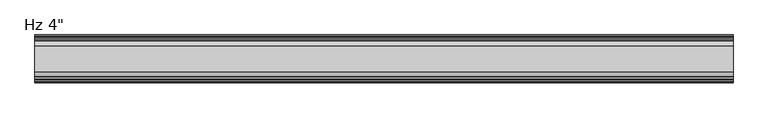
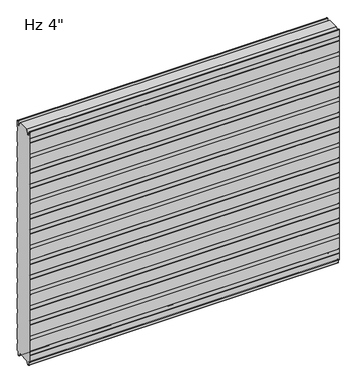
"""IFC4 building model written with IfcOpenShell, lengths in millimetres: plate geometry."""

from ifc_helpers import new_model, si_unit, frame, origin, place, context, project, spatial, polyline, circle_curve, source, transform, mapped, element, save
from ifc_brep_helpers import plane_surface, cylinder_surface, revolved_surface, advanced_brep


def plate_88cddf2a(model_context):
    return source(origin(), model_context, "Body", "AdvancedBrep", [
        advanced_brep(
        [(-730.0, -99.4088405, 1097.7830195), (-730.0, -99.4088405, 1117.5660142), (-730.0, -100.5999956, 1118.6385351), (-730.0, -100.5999956, 1150.8100652), (-730.0, -98.6227271, 1152.7873337), (-730.0, -97.5806285, 1152.7873337), (-730.0, -95.60336, 1150.8100652), (-730.0, -95.60336, 1136.6216802), (-730.0, -93.0154835, 1134.0338036), (-730.0, -88.6950653, 1134.0338036), (-730.0, -88.1060718, 1133.4253365), (-730.0, -88.1060718, 1131.0482432), (-730.0, -87.1065979, 1131.0482432), (-730.0, -87.1065979, 1136.4905123), (-730.0, -77.8490821, 1152.525), (-730.0, -23.7509179, 1152.525), (-730.0, -14.4934021, 1136.4905123), (-730.0, -14.4934021, 1131.0482432), (-730.0, -13.4939282, 1131.0482432), (-730.0, -13.4939282, 1133.4253365), (-730.0, -12.9049347, 1134.0338036), (-730.0, -8.5845165, 1134.0338036), (-730.0, -5.99664, 1136.6216802), (-730.0, -5.99664, 1150.8100652), (-730.0, -4.0193715, 1152.7873337), (-730.0, -2.9772729, 1152.7873337), (-730.0, -1.0000044, 1150.8100652), (-730.0, -1.0000044, 1118.6385351), (-730.0, -2.1911595, 1117.5660142), (-730.0, -2.1911595, 1097.7830195), (-730.0, -1.0, 1096.7104947), (-730.0, -1.0, 1043.0159187), (-730.0, -2.1911595, 1041.9433939), (-730.0, -2.1911595, 1022.1603992), (-730.0, -1.0, 1021.0878744), (-730.0, -1.0, 967.3932985), (-730.0, -2.1911595, 966.3207736), (-730.0, -2.1911595, 946.537779), (-730.0, -1.0, 945.4652541), (-730.0, -1.0, 891.7706782), (-730.0, -2.1911595, 890.6981534), (-730.0, -2.1911595, 870.9151587), (-730.0, -1.0, 869.8426339), (-730.0, -1.0, 816.148058), (-730.0, -2.1911595, 815.0755331), (-730.0, -2.1911595, 795.2925384), (-730.0, -1.0, 794.2200136), (-730.0, -1.0, 740.5254377), (-730.0, -2.1911595, 739.4529129), (-730.0, -2.1911595, 719.6699182), (-730.0, -1.0, 718.5973933), (-730.0, -1.0, 664.9028174), (-730.0, -2.1911595, 663.8302926), (-730.0, -2.1911595, 644.0472979), (-730.0, -1.0, 642.9747731), (-730.0, -1.0, 589.2801972), (-730.0, -2.1911595, 588.2076723), (-730.0, -2.1911595, 568.4246776), (-730.0, -1.0, 567.3521528), (-730.0, -1.0, 513.6575769), (-730.0, -2.1911595, 512.5850521), (-730.0, -2.1911595, 492.8020574), (-730.0, -1.0, 491.7295325), (-730.0, -1.0, 438.0349566), (-730.0, -2.1911595, 436.9624318), (-730.0, -2.1911595, 417.1794371), (-730.0, -1.0, 416.1069123), (-730.0, -1.0, 362.4123364), (-730.0, -2.1911595, 361.3398115), (-730.0, -2.1911595, 341.5568169), (-730.0, -1.0, 340.484292), (-730.0, -1.0, 286.7897161), (-730.0, -2.1911595, 285.7171913), (-730.0, -2.1911595, 265.9341966), (-730.0, -1.0, 264.8616718), (-730.0, -1.0, 211.1670958), (-730.0, -2.1911595, 210.094571), (-730.0, -2.1911595, 190.3115763), (-730.0, -1.0, 189.2390515), (-730.0, -1.0, 135.5444756), (-730.0, -2.1911595, 134.4719507), (-730.0, -2.1911595, 114.6889561), (-730.0, -1.0, 113.6164312), (-730.0, -1.0, 59.9218553), (-730.0, -2.1911595, 58.8493305), (-730.0, -2.1911595, 39.0663358), (-730.0, -1.0000109, 37.993811), (-730.0, -1.0000109, 5.8272239), (-730.0, -2.9772849, 3.8499499), (-730.0, -5.2691749, 3.8499499), (-730.0, -9.246442, -0.1273173), (-730.0, -9.246442, -15.7237417), (-730.0, -9.8343189, -16.3116186), (-730.0, -12.9058679, -16.3116186), (-730.0, -13.4937446, -15.723742), (-730.0, -13.4937446, -13.3687064), (-730.0, -14.4937446, -13.3687064), (-730.0, -14.4937446, -15.6582851), (-730.0, -23.7509179, 0.0), (-730.0, -77.8490865, 0.0), (-730.0, -87.1062554, -15.6582851), (-730.0, -87.1062554, -13.3687064), (-730.0, -88.1062554, -13.3687064), (-730.0, -88.1062554, -15.723742), (-730.0, -88.6941321, -16.3116186), (-730.0, -91.7656811, -16.3116186), (-730.0, -92.353558, -15.7237417), (-730.0, -92.353558, -0.1273173), (-730.0, -96.3308251, 3.8499499), (-730.0, -98.6227151, 3.8499499), (-730.0, -100.5999891, 5.8272239), (-730.0, -100.5999891, 37.993811), (-730.0, -99.4088405, 39.0663358), (-730.0, -99.4088405, 58.8493305), (-730.0, -100.6, 59.9218553), (-730.0, -100.6, 113.6164312), (-730.0, -99.4088405, 114.6889561), (-730.0, -99.4088405, 134.4719507), (-730.0, -100.6, 135.5444756), (-730.0, -100.6, 189.2390515), (-730.0, -99.4088405, 190.3115763), (-730.0, -99.4088405, 210.094571), (-730.0, -100.6, 211.1670958), (-730.0, -100.6, 264.8616718), (-730.0, -99.4088405, 265.9341966), (-730.0, -99.4088405, 285.7171913), (-730.0, -100.6, 286.7897161), (-730.0, -100.6, 340.484292), (-730.0, -99.4088405, 341.5568169), (-730.0, -99.4088405, 361.3398115), (-730.0, -100.6, 362.4123364), (-730.0, -100.6, 416.1069123), (-730.0, -99.4088405, 417.1794371), (-730.0, -99.4088405, 436.9624318), (-730.0, -100.6, 438.0349566), (-730.0, -100.6, 491.7295325), (-730.0, -99.4088405, 492.8020574), (-730.0, -99.4088405, 512.5850521), (-730.0, -100.6, 513.6575769), (-730.0, -100.6, 567.3521528), (-730.0, -99.4088405, 568.4246776), (-730.0, -99.4088405, 588.2076723), (-730.0, -100.6, 589.2801972), (-730.0, -100.6, 642.9747731), (-730.0, -99.4088405, 644.0472979), (-730.0, -99.4088405, 663.8302926), (-730.0, -100.6, 664.9028174), (-730.0, -100.6, 718.5973933), (-730.0, -99.4088405, 719.6699182), (-730.0, -99.4088405, 739.4529129), (-730.0, -100.6, 740.5254377), (-730.0, -100.6, 794.2200136), (-730.0, -99.4088405, 795.2925384), (-730.0, -99.4088405, 815.0755331), (-730.0, -100.6, 816.148058), (-730.0, -100.6, 869.8426339), (-730.0, -99.4088405, 870.9151587), (-730.0, -99.4088405, 890.6981534), (-730.0, -100.6, 891.7706782), (-730.0, -100.6, 945.4652541), (-730.0, -99.4088405, 946.537779), (-730.0, -99.4088405, 966.3207736), (-730.0, -100.6, 967.3932985), (-730.0, -100.6, 1021.0878744), (-730.0, -99.4088405, 1022.1603992), (-730.0, -99.4088405, 1041.9433939), (-730.0, -100.6, 1043.0159187), (-730.0, -100.6, 1096.7104947), (730.0, -99.4088405, 1097.7830195), (730.0, -100.6, 1096.7104947), (730.0, -100.6, 1043.0159187), (730.0, -99.4088405, 1041.9433939), (730.0, -99.4088405, 1022.1603992), (730.0, -100.6, 1021.0878744), (730.0, -100.6, 967.3932985), (730.0, -99.4088405, 966.3207736), (730.0, -99.4088405, 946.537779), (730.0, -100.6, 945.4652541), (730.0, -100.6, 891.7706782), (730.0, -99.4088405, 890.6981534), (730.0, -99.4088405, 870.9151587), (730.0, -100.6, 869.8426339), (730.0, -100.6, 816.148058), (730.0, -99.4088405, 815.0755331), (730.0, -99.4088405, 795.2925384), (730.0, -100.6, 794.2200136), (730.0, -100.6, 740.5254377), (730.0, -99.4088405, 739.4529129), (730.0, -99.4088405, 719.6699182), (730.0, -100.6, 718.5973933), (730.0, -100.6, 664.9028174), (730.0, -99.4088405, 663.8302926), (730.0, -99.4088405, 644.0472979), (730.0, -100.6, 642.9747731), (730.0, -100.6, 589.2801972), (730.0, -99.4088405, 588.2076723), (730.0, -99.4088405, 568.4246776), (730.0, -100.6, 567.3521528), (730.0, -100.6, 513.6575769), (730.0, -99.4088405, 512.5850521), (730.0, -99.4088405, 492.8020574), (730.0, -100.6, 491.7295325), (730.0, -100.6, 438.0349566), (730.0, -99.4088405, 436.9624318), (730.0, -99.4088405, 417.1794371), (730.0, -100.6, 416.1069123), (730.0, -100.6, 362.4123364), (730.0, -99.4088405, 361.3398115), (730.0, -99.4088405, 341.5568169), (730.0, -100.6, 340.484292), (730.0, -100.6, 286.7897161), (730.0, -99.4088405, 285.7171913), (730.0, -99.4088405, 265.9341966), (730.0, -100.6, 264.8616718), (730.0, -100.6, 211.1670958), (730.0, -99.4088405, 210.094571), (730.0, -99.4088405, 190.3115763), (730.0, -100.6, 189.2390515), (730.0, -100.6, 135.5444756), (730.0, -99.4088405, 134.4719507), (730.0, -99.4088405, 114.6889561), (730.0, -100.6, 113.6164312), (730.0, -100.6, 59.9218553), (730.0, -99.4088405, 58.8493305), (730.0, -99.4088405, 39.0663358), (730.0, -100.5999891, 37.993811), (730.0, -100.5999891, 5.8272239), (730.0, -98.6227151, 3.8499499), (730.0, -96.3308251, 3.8499499), (730.0, -92.353558, -0.1273173), (730.0, -92.353558, -15.7237417), (730.0, -91.7656811, -16.3116186), (730.0, -88.6941321, -16.3116186), (730.0, -88.1062554, -15.723742), (730.0, -88.1062554, -13.3687064), (730.0, -87.1062554, -13.3687064), (730.0, -87.1062554, -15.6582851), (730.0, -77.8490821, 0.0), (730.0, -23.7509179, 0.0), (730.0, -14.4937446, -15.6582851), (730.0, -14.4937446, -13.3687064), (730.0, -13.4937446, -13.3687064), (730.0, -13.4937446, -15.723742), (730.0, -12.9058679, -16.3116186), (730.0, -9.8343189, -16.3116186), (730.0, -9.246442, -15.7237417), (730.0, -9.246442, -0.1273173), (730.0, -5.2691749, 3.8499499), (730.0, -2.9772849, 3.8499499), (730.0, -1.0000109, 5.8272239), (730.0, -1.0000109, 37.993811), (730.0, -2.1911595, 39.0663358), (730.0, -2.1911595, 58.8493305), (730.0, -1.0, 59.9218553), (730.0, -1.0, 113.6164312), (730.0, -2.1911595, 114.6889561), (730.0, -2.1911595, 134.4719507), (730.0, -1.0, 135.5444756), (730.0, -1.0, 189.2390515), (730.0, -2.1911595, 190.3115763), (730.0, -2.1911595, 210.094571), (730.0, -1.0, 211.1670958), (730.0, -1.0, 264.8616718), (730.0, -2.1911595, 265.9341966), (730.0, -2.1911595, 285.7171913), (730.0, -1.0, 286.7897161), (730.0, -1.0, 340.484292), (730.0, -2.1911595, 341.5568169), (730.0, -2.1911595, 361.3398115), (730.0, -1.0, 362.4123364), (730.0, -1.0, 416.1069123), (730.0, -2.1911595, 417.1794371), (730.0, -2.1911595, 436.9624318), (730.0, -1.0, 438.0349566), (730.0, -1.0, 491.7295325), (730.0, -2.1911595, 492.8020574), (730.0, -2.1911595, 512.5850521), (730.0, -1.0, 513.6575769), (730.0, -1.0, 567.3521528), (730.0, -2.1911595, 568.4246776), (730.0, -2.1911595, 588.2076723), (730.0, -1.0, 589.2801972), (730.0, -1.0, 642.9747731), (730.0, -2.1911595, 644.0472979), (730.0, -2.1911595, 663.8302926), (730.0, -1.0, 664.9028174), (730.0, -1.0, 718.5973933), (730.0, -2.1911595, 719.6699182), (730.0, -2.1911595, 739.4529129), (730.0, -1.0, 740.5254377), (730.0, -1.0, 794.2200136), (730.0, -2.1911595, 795.2925384), (730.0, -2.1911595, 815.0755331), (730.0, -1.0, 816.148058), (730.0, -1.0, 869.8426339), (730.0, -2.1911595, 870.9151587), (730.0, -2.1911595, 890.6981534), (730.0, -1.0, 891.7706782), (730.0, -1.0, 945.4652541), (730.0, -2.1911595, 946.537779), (730.0, -2.1911595, 966.3207736), (730.0, -1.0, 967.3932985), (730.0, -1.0, 1021.0878744), (730.0, -2.1911595, 1022.1603992), (730.0, -2.1911595, 1041.9433939), (730.0, -1.0, 1043.0159187), (730.0, -1.0, 1096.7104947), (730.0, -2.1911595, 1097.7830195), (730.0, -2.1911595, 1117.5660142), (730.0, -1.0000044, 1118.6385351), (730.0, -1.0000044, 1150.8100652), (730.0, -2.9772729, 1152.7873337), (730.0, -4.0193715, 1152.7873337), (730.0, -5.99664, 1150.8100652), (730.0, -5.99664, 1136.6216802), (730.0, -8.5845165, 1134.0338036), (730.0, -12.9049347, 1134.0338036), (730.0, -13.4939282, 1133.4253365), (730.0, -13.4939282, 1131.0482432), (730.0, -14.4934021, 1131.0482432), (730.0, -14.4934021, 1136.4905123), (730.0, -23.7509179, 1152.525), (730.0, -77.8490865, 1152.525), (730.0, -87.1065979, 1136.4905123), (730.0, -87.1065979, 1131.0482432), (730.0, -88.1060718, 1131.0482432), (730.0, -88.1060718, 1133.4253365), (730.0, -88.6950653, 1134.0338036), (730.0, -93.0154835, 1134.0338036), (730.0, -95.60336, 1136.6216802), (730.0, -95.60336, 1150.8100652), (730.0, -97.5806285, 1152.7873337), (730.0, -98.6227271, 1152.7873337), (730.0, -100.5999956, 1150.8100652), (730.0, -100.5999956, 1118.6385351), (730.0, -99.4088405, 1117.5660142)],
        [
            (0, 1),
            (1, 2),
            (2, 3),
            (3, 4, circle_curve(frame((-730.0, -98.6227271, 1150.8100652), z_axis=(-1.0, 0.0, 0.0), x_axis=(0.0, 0.0, -1.0)), 1.9772685)),
            (4, 5),
            (5, 6, circle_curve(frame((-730.0, -97.5806285, 1150.8100652), z_axis=(-1.0, 0.0, 0.0), x_axis=(0.0, 0.0, -1.0)), 1.9772685)),
            (6, 7),
            (7, 8, circle_curve(frame((-730.0, -93.0154835, 1136.6216802), z_axis=(1.0, 0.0, 0.0), x_axis=(0.0, 0.0, -1.0)), 2.5878765)),
            (8, 9),
            (9, 10, circle_curve(frame((-730.0, -88.6950653, 1133.4444985), z_axis=(-1.0, 0.0, 0.0), x_axis=(0.0, 0.0, -1.0)), 0.5893051)),
            (10, 11),
            (11, 12),
            (12, 13),
            (13, 14),
            (14, 15),
            (15, 16),
            (16, 17),
            (17, 18),
            (18, 19),
            (19, 20, circle_curve(frame((-730.0, -12.9049347, 1133.4444985), z_axis=(-1.0, 0.0, 0.0), x_axis=(0.0, 1.0, 0.0)), 0.5893051)),
            (20, 21),
            (21, 22, circle_curve(frame((-730.0, -8.5845165, 1136.6216802), z_axis=(1.0, 0.0, 0.0), x_axis=(0.0, 1.0, 0.0)), 2.5878765)),
            (22, 23),
            (23, 24, circle_curve(frame((-730.0, -4.0193715, 1150.8100652), z_axis=(-1.0, 0.0, 0.0), x_axis=(0.0, 1.0, 0.0)), 1.9772685)),
            (24, 25),
            (25, 26, circle_curve(frame((-730.0, -2.9772729, 1150.8100652), z_axis=(-1.0, 0.0, 0.0), x_axis=(0.0, 1.0, 0.0)), 1.9772685)),
            (26, 27),
            (27, 28),
            (28, 29),
            (29, 30),
            (30, 31),
            (31, 32),
            (32, 33),
            (33, 34),
            (34, 35),
            (35, 36),
            (36, 37),
            (37, 38),
            (38, 39),
            (39, 40),
            (40, 41),
            (41, 42),
            (42, 43),
            (43, 44),
            (44, 45),
            (45, 46),
            (46, 47),
            (47, 48),
            (48, 49),
            (49, 50),
            (50, 51),
            (51, 52),
            (52, 53),
            (53, 54),
            (54, 55),
            (55, 56),
            (56, 57),
            (57, 58),
            (58, 59),
            (59, 60),
            (60, 61),
            (61, 62),
            (62, 63),
            (63, 64),
            (64, 65),
            (65, 66),
            (66, 67),
            (67, 68),
            (68, 69),
            (69, 70),
            (70, 71),
            (71, 72),
            (72, 73),
            (73, 74),
            (74, 75),
            (75, 76),
            (76, 77),
            (77, 78),
            (78, 79),
            (79, 80),
            (80, 81),
            (81, 82),
            (82, 83),
            (83, 84),
            (84, 85),
            (85, 86),
            (86, 87),
            (87, 88, circle_curve(frame((-730.0, -2.9772849, 5.8272239), z_axis=(-1.0, 0.0, 0.0), x_axis=(0.0, 1.0, 0.0)), 1.977274)),
            (88, 89),
            (89, 90, circle_curve(frame((-730.0, -5.2691749, -0.1273173), z_axis=(1.0, 0.0, 0.0), x_axis=(0.0, 1.0, 0.0)), 3.9772671)),
            (90, 91),
            (91, 92, circle_curve(frame((-730.0, -9.8343189, -15.7237417), z_axis=(-1.0, 0.0, 0.0), x_axis=(0.0, 1.0, 0.0)), 0.5878769)),
            (92, 93),
            (93, 94, circle_curve(frame((-730.0, -12.9058679, -15.723742), z_axis=(-1.0, 0.0, 0.0), x_axis=(0.0, 1.0, 0.0)), 0.5878766)),
            (94, 95),
            (95, 96),
            (96, 97),
            (97, 98),
            (98, 99),
            (99, 100),
            (100, 101),
            (101, 102),
            (102, 103),
            (103, 104, circle_curve(frame((-730.0, -88.6941321, -15.723742), z_axis=(-1.0, 0.0, 0.0), x_axis=(0.0, 0.0, -1.0)), 0.5878766)),
            (104, 105),
            (105, 106, circle_curve(frame((-730.0, -91.7656811, -15.7237417), z_axis=(-1.0, 0.0, 0.0), x_axis=(0.0, 0.0, -1.0)), 0.5878769)),
            (106, 107),
            (107, 108, circle_curve(frame((-730.0, -96.3308251, -0.1273173), z_axis=(1.0, 0.0, 0.0), x_axis=(0.0, 0.0, -1.0)), 3.9772671)),
            (108, 109),
            (109, 110, circle_curve(frame((-730.0, -98.6227151, 5.8272239), z_axis=(-1.0, 0.0, 0.0), x_axis=(0.0, 0.0, -1.0)), 1.977274)),
            (110, 111),
            (111, 112),
            (112, 113),
            (113, 114),
            (114, 115),
            (115, 116),
            (116, 117),
            (117, 118),
            (118, 119),
            (119, 120),
            (120, 121),
            (121, 122),
            (122, 123),
            (123, 124),
            (124, 125),
            (125, 126),
            (126, 127),
            (127, 128),
            (128, 129),
            (129, 130),
            (130, 131),
            (131, 132),
            (132, 133),
            (133, 134),
            (134, 135),
            (135, 136),
            (136, 137),
            (137, 138),
            (138, 139),
            (139, 140),
            (140, 141),
            (141, 142),
            (142, 143),
            (143, 144),
            (144, 145),
            (145, 146),
            (146, 147),
            (147, 148),
            (148, 149),
            (149, 150),
            (150, 151),
            (151, 152),
            (152, 153),
            (153, 154),
            (154, 155),
            (155, 156),
            (156, 157),
            (157, 158),
            (158, 159),
            (159, 160),
            (160, 161),
            (161, 162),
            (162, 163),
            (163, 164),
            (164, 165),
            (165, 166),
            (166, 167),
            (167, 0),
            (168, 169),
            (169, 170),
            (170, 171),
            (171, 172),
            (172, 173),
            (173, 174),
            (174, 175),
            (175, 176),
            (176, 177),
            (177, 178),
            (178, 179),
            (179, 180),
            (180, 181),
            (181, 182),
            (182, 183),
            (183, 184),
            (184, 185),
            (185, 186),
            (186, 187),
            (187, 188),
            (188, 189),
            (189, 190),
            (190, 191),
            (191, 192),
            (192, 193),
            (193, 194),
            (194, 195),
            (195, 196),
            (196, 197),
            (197, 198),
            (198, 199),
            (199, 200),
            (200, 201),
            (201, 202),
            (202, 203),
            (203, 204),
            (204, 205),
            (205, 206),
            (206, 207),
            (207, 208),
            (208, 209),
            (209, 210),
            (210, 211),
            (211, 212),
            (212, 213),
            (213, 214),
            (214, 215),
            (215, 216),
            (216, 217),
            (217, 218),
            (218, 219),
            (219, 220),
            (220, 221),
            (221, 222),
            (222, 223),
            (223, 224),
            (224, 225),
            (225, 226),
            (226, 227, circle_curve(frame((730.0, -98.6227151, 5.8272239), z_axis=(1.0, 0.0, 0.0), x_axis=(0.0, 0.0, -1.0)), 1.977274)),
            (227, 228),
            (228, 229, circle_curve(frame((730.0, -96.3308251, -0.1273173), z_axis=(-1.0, 0.0, 0.0), x_axis=(0.0, 0.0, -1.0)), 3.9772671)),
            (229, 230),
            (230, 231, circle_curve(frame((730.0, -91.7656811, -15.7237417), z_axis=(1.0, 0.0, 0.0), x_axis=(0.0, 0.0, -1.0)), 0.5878769)),
            (231, 232),
            (232, 233, circle_curve(frame((730.0, -88.6941321, -15.723742), z_axis=(1.0, 0.0, 0.0), x_axis=(0.0, 0.0, -1.0)), 0.5878766)),
            (233, 234),
            (234, 235),
            (235, 236),
            (236, 237),
            (237, 238),
            (238, 239),
            (239, 240),
            (240, 241),
            (241, 242),
            (242, 243, circle_curve(frame((730.0, -12.9058679, -15.723742), z_axis=(1.0, 0.0, 0.0), x_axis=(0.0, 1.0, 0.0)), 0.5878766)),
            (243, 244),
            (244, 245, circle_curve(frame((730.0, -9.8343189, -15.7237417), z_axis=(1.0, 0.0, 0.0), x_axis=(0.0, 1.0, 0.0)), 0.5878769)),
            (245, 246),
            (246, 247, circle_curve(frame((730.0, -5.2691749, -0.1273173), z_axis=(-1.0, 0.0, 0.0), x_axis=(0.0, 1.0, 0.0)), 3.9772671)),
            (247, 248),
            (248, 249, circle_curve(frame((730.0, -2.9772849, 5.8272239), z_axis=(1.0, 0.0, 0.0), x_axis=(0.0, 1.0, 0.0)), 1.977274)),
            (249, 250),
            (250, 251),
            (251, 252),
            (252, 253),
            (253, 254),
            (254, 255),
            (255, 256),
            (256, 257),
            (257, 258),
            (258, 259),
            (259, 260),
            (260, 261),
            (261, 262),
            (262, 263),
            (263, 264),
            (264, 265),
            (265, 266),
            (266, 267),
            (267, 268),
            (268, 269),
            (269, 270),
            (270, 271),
            (271, 272),
            (272, 273),
            (273, 274),
            (274, 275),
            (275, 276),
            (276, 277),
            (277, 278),
            (278, 279),
            (279, 280),
            (280, 281),
            (281, 282),
            (282, 283),
            (283, 284),
            (284, 285),
            (285, 286),
            (286, 287),
            (287, 288),
            (288, 289),
            (289, 290),
            (290, 291),
            (291, 292),
            (292, 293),
            (293, 294),
            (294, 295),
            (295, 296),
            (296, 297),
            (297, 298),
            (298, 299),
            (299, 300),
            (300, 301),
            (301, 302),
            (302, 303),
            (303, 304),
            (304, 305),
            (305, 306),
            (306, 307),
            (307, 308),
            (308, 309),
            (309, 310),
            (310, 311, circle_curve(frame((730.0, -2.9772729, 1150.8100652), z_axis=(1.0, 0.0, 0.0), x_axis=(0.0, 1.0, 0.0)), 1.9772685)),
            (311, 312),
            (312, 313, circle_curve(frame((730.0, -4.0193715, 1150.8100652), z_axis=(1.0, 0.0, 0.0), x_axis=(0.0, 1.0, 0.0)), 1.9772685)),
            (313, 314),
            (314, 315, circle_curve(frame((730.0, -8.5845165, 1136.6216802), z_axis=(-1.0, 0.0, 0.0), x_axis=(0.0, 1.0, 0.0)), 2.5878765)),
            (315, 316),
            (316, 317, circle_curve(frame((730.0, -12.9049347, 1133.4444985), z_axis=(1.0, 0.0, 0.0), x_axis=(0.0, 1.0, 0.0)), 0.5893051)),
            (317, 318),
            (318, 319),
            (319, 320),
            (320, 321),
            (321, 322),
            (322, 323),
            (323, 324),
            (324, 325),
            (325, 326),
            (326, 327, circle_curve(frame((730.0, -88.6950653, 1133.4444985), z_axis=(1.0, 0.0, 0.0), x_axis=(0.0, 0.0, -1.0)), 0.5893051)),
            (327, 328),
            (328, 329, circle_curve(frame((730.0, -93.0154835, 1136.6216802), z_axis=(-1.0, 0.0, 0.0), x_axis=(0.0, 0.0, -1.0)), 2.5878765)),
            (329, 330),
            (330, 331, circle_curve(frame((730.0, -97.5806285, 1150.8100652), z_axis=(1.0, 0.0, 0.0), x_axis=(0.0, 0.0, -1.0)), 1.9772685)),
            (331, 332),
            (332, 333, circle_curve(frame((730.0, -98.6227271, 1150.8100652), z_axis=(1.0, 0.0, 0.0), x_axis=(0.0, 0.0, -1.0)), 1.9772685)),
            (333, 334),
            (334, 335),
            (335, 168),
            (28, 308),
            (307, 29),
            (27, 309),
            (26, 310),
            (25, 311),
            (24, 312),
            (23, 313),
            (22, 314),
            (21, 315),
            (20, 316),
            (19, 317),
            (18, 318),
            (17, 319),
            (16, 320),
            (15, 321),
            (97, 239),
            (238, 98),
            (96, 240),
            (95, 241),
            (94, 242),
            (93, 243),
            (92, 244),
            (91, 245),
            (90, 246),
            (89, 247),
            (88, 248),
            (87, 249),
            (86, 250),
            (85, 251),
            (84, 252),
            (83, 253),
            (82, 254),
            (81, 255),
            (80, 256),
            (79, 257),
            (78, 258),
            (77, 259),
            (76, 260),
            (75, 261),
            (74, 262),
            (73, 263),
            (72, 264),
            (71, 265),
            (70, 266),
            (69, 267),
            (68, 268),
            (67, 269),
            (66, 270),
            (65, 271),
            (64, 272),
            (63, 273),
            (62, 274),
            (61, 275),
            (60, 276),
            (59, 277),
            (58, 278),
            (57, 279),
            (56, 280),
            (55, 281),
            (54, 282),
            (53, 283),
            (52, 284),
            (51, 285),
            (50, 286),
            (49, 287),
            (48, 288),
            (47, 289),
            (46, 290),
            (45, 291),
            (44, 292),
            (43, 293),
            (42, 294),
            (41, 295),
            (40, 296),
            (39, 297),
            (38, 298),
            (37, 299),
            (36, 300),
            (35, 301),
            (34, 302),
            (33, 303),
            (32, 304),
            (31, 305),
            (30, 306),
            (14, 322),
            (237, 99),
            (167, 169),
            (168, 0),
            (166, 170),
            (165, 171),
            (164, 172),
            (163, 173),
            (162, 174),
            (161, 175),
            (160, 176),
            (159, 177),
            (158, 178),
            (157, 179),
            (156, 180),
            (155, 181),
            (154, 182),
            (153, 183),
            (152, 184),
            (151, 185),
            (150, 186),
            (149, 187),
            (148, 188),
            (147, 189),
            (146, 190),
            (145, 191),
            (144, 192),
            (143, 193),
            (142, 194),
            (141, 195),
            (140, 196),
            (139, 197),
            (138, 198),
            (137, 199),
            (136, 200),
            (135, 201),
            (134, 202),
            (133, 203),
            (132, 204),
            (131, 205),
            (130, 206),
            (129, 207),
            (128, 208),
            (127, 209),
            (126, 210),
            (125, 211),
            (124, 212),
            (123, 213),
            (122, 214),
            (121, 215),
            (120, 216),
            (119, 217),
            (118, 218),
            (117, 219),
            (116, 220),
            (115, 221),
            (114, 222),
            (113, 223),
            (112, 224),
            (111, 225),
            (110, 226),
            (109, 227),
            (108, 228),
            (107, 229),
            (106, 230),
            (105, 231),
            (104, 232),
            (103, 233),
            (102, 234),
            (101, 235),
            (100, 236),
            (13, 323),
            (12, 324),
            (11, 325),
            (10, 326),
            (9, 327),
            (8, 328),
            (7, 329),
            (6, 330),
            (5, 331),
            (4, 332),
            (3, 333),
            (2, 334),
            (1, 335),
        ],
        [
            plane_surface(frame((-730.0, -100.6, 576.2625), z_axis=(-1.0, 0.0, 0.0), x_axis=(0.0, -1.0, 0.0))),
            plane_surface(frame((730.0, -100.6, 576.2625), z_axis=(1.0, 0.0, 0.0), x_axis=(0.0, -1.0, 0.0))),
            plane_surface(frame((-730.0, -2.1911595, 1097.7830195), z_axis=(0.0, 1.0, 0.0), x_axis=(1.0, 0.0, 0.0))),
            plane_surface(frame((-730.0, -2.1911595, 1117.5660142), z_axis=(0.0, 0.669130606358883, -0.7431448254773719), x_axis=(1.0, 0.0, 0.0))),
            plane_surface(frame((-730.0, -1.0000044, 1118.6385351), z_axis=(0.0, 1.0, 0.0), x_axis=(1.0, 0.0, 0.0))),
            cylinder_surface(frame((-730.0, -2.9772729, 1150.8100652), z_axis=(-1.0, 0.0, 0.0), x_axis=(0.0, 1.0, 0.0)), 1.9772685),
            plane_surface(frame((-730.0, -2.9772729, 1152.7873337), z_axis=(0.0, 0.0, 1.0), x_axis=(1.0, 0.0, 0.0))),
            cylinder_surface(frame((-730.0, -4.0193715, 1150.8100652), z_axis=(-1.0, 0.0, 0.0), x_axis=(0.0, 1.0, 0.0)), 1.9772685),
            plane_surface(frame((-730.0, -5.99664, 1150.8100652), z_axis=(0.0, -1.0, 0.0), x_axis=(1.0, 0.0, 0.0))),
            revolved_surface(polyline([(730.0, -5.996639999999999, 1136.6216802), (-730.0, -5.996639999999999, 1136.6216802)]), (-730.0, -8.5845165, 1136.6216802), (1.0, 0.0, 0.0)),
            plane_surface(frame((-730.0, -8.5845165, 1134.0338036), z_axis=(0.0, 0.0, 1.0), x_axis=(1.0, 0.0, 0.0))),
            cylinder_surface(frame((-730.0, -12.9049347, 1133.4444985), z_axis=(-1.0, 0.0, 0.0), x_axis=(0.0, 1.0, 0.0)), 0.5893051),
            plane_surface(frame((-730.0, -13.4939282, 1133.4253365), z_axis=(0.0, -1.0, 0.0), x_axis=(1.0, 0.0, 0.0))),
            plane_surface(frame((-730.0, -13.4939282, 1131.0482432), z_axis=(0.0, 0.0, 1.0), x_axis=(1.0, 0.0, 0.0))),
            plane_surface(frame((-730.0, -14.4934021, 1131.0482432), z_axis=(0.0, 1.0, 0.0), x_axis=(1.0, 0.0, 0.0))),
            plane_surface(frame((-730.0, -14.4934021, 1136.4905123), z_axis=(0.0, 0.8660254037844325, 0.5000000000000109), x_axis=(1.0, 0.0, 0.0))),
            plane_surface(frame((-730.0, -23.7509179, 0.0), z_axis=(0.0, -0.8608169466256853, -0.5089147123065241), x_axis=(1.0, 0.0, 0.0))),
            plane_surface(frame((-730.0, -14.4937446, -15.6582851), z_axis=(0.0, 1.0, 0.0), x_axis=(1.0, 0.0, 0.0))),
            plane_surface(frame((-730.0, -14.4937446, -13.3687064), z_axis=(0.0, 0.0, -1.0), x_axis=(1.0, 0.0, 0.0))),
            plane_surface(frame((-730.0, -13.4937446, -13.3687064), z_axis=(0.0, -1.0, 0.0), x_axis=(1.0, 0.0, 0.0))),
            cylinder_surface(frame((-730.0, -12.9058679, -15.723742), z_axis=(-1.0, 0.0, 0.0), x_axis=(0.0, 1.0, 0.0)), 0.5878766),
            plane_surface(frame((-730.0, -12.9058679, -16.3116186), z_axis=(0.0, 0.0, -1.0), x_axis=(1.0, 0.0, 0.0))),
            cylinder_surface(frame((-730.0, -9.8343189, -15.7237417), z_axis=(-1.0, 0.0, 0.0), x_axis=(0.0, 1.0, 0.0)), 0.5878769),
            plane_surface(frame((-730.0, -9.246442, -15.7237417), z_axis=(0.0, 1.0, 0.0), x_axis=(1.0, 0.0, 0.0))),
            revolved_surface(polyline([(730.0, -1.2919078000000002, -0.1273173), (-730.0, -1.2919078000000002, -0.1273173)]), (-730.0, -5.2691749, -0.1273173), (1.0, 0.0, 0.0)),
            plane_surface(frame((-730.0, -5.2691749, 3.8499499), z_axis=(0.0, 0.0, -1.0), x_axis=(1.0, 0.0, 0.0))),
            cylinder_surface(frame((-730.0, -2.9772849, 5.8272239), z_axis=(-1.0, 0.0, 0.0), x_axis=(0.0, 1.0, 0.0)), 1.977274),
            plane_surface(frame((-730.0, -1.0000109, 5.8272239), z_axis=(0.0, 1.0, 0.0), x_axis=(1.0, 0.0, 0.0))),
            plane_surface(frame((-730.0, -1.0000109, 37.993811), z_axis=(0.0, 0.6691339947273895, 0.7431417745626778), x_axis=(1.0, 0.0, 0.0))),
            plane_surface(frame((-730.0, -2.1911595, 39.0663358), z_axis=(0.0, 1.0, 0.0), x_axis=(1.0, 0.0, 0.0))),
            plane_surface(frame((-730.0, -2.1911595, 58.8493305), z_axis=(0.0, 0.6691306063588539, -0.7431448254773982), x_axis=(1.0, 0.0, 0.0))),
            plane_surface(frame((-730.0, -1.0, 59.9218553), z_axis=(0.0, 1.0, 0.0), x_axis=(1.0, 0.0, 0.0))),
            plane_surface(frame((-730.0, -1.0, 113.6164312), z_axis=(0.0, 0.6691306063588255, 0.7431448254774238), x_axis=(1.0, 0.0, 0.0))),
            plane_surface(frame((-730.0, -2.1911595, 114.6889561), z_axis=(0.0, 1.0, 0.0), x_axis=(1.0, 0.0, 0.0))),
            plane_surface(frame((-730.0, -2.1911595, 134.4719507), z_axis=(0.0, 0.6691306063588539, -0.7431448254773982), x_axis=(1.0, 0.0, 0.0))),
            plane_surface(frame((-730.0, -1.0, 135.5444756), z_axis=(0.0, 1.0, 0.0), x_axis=(1.0, 0.0, 0.0))),
            plane_surface(frame((-730.0, -1.0, 189.2390515), z_axis=(0.0, 0.669130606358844, 0.743144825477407), x_axis=(1.0, 0.0, 0.0))),
            plane_surface(frame((-730.0, -2.1911595, 190.3115763), z_axis=(0.0, 1.0, 0.0), x_axis=(1.0, 0.0, 0.0))),
            plane_surface(frame((-730.0, -2.1911595, 210.094571), z_axis=(0.0, 0.6691306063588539, -0.7431448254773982), x_axis=(1.0, 0.0, 0.0))),
            plane_surface(frame((-730.0, -1.0, 211.1670958), z_axis=(0.0, 1.0, 0.0), x_axis=(1.0, 0.0, 0.0))),
            plane_surface(frame((-730.0, -1.0, 264.8616718), z_axis=(0.0, 0.6691306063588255, 0.7431448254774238), x_axis=(1.0, 0.0, 0.0))),
            plane_surface(frame((-730.0, -2.1911595, 265.9341966), z_axis=(0.0, 1.0, 0.0), x_axis=(1.0, 0.0, 0.0))),
            plane_surface(frame((-730.0, -2.1911595, 285.7171913), z_axis=(0.0, 0.6691306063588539, -0.7431448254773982), x_axis=(1.0, 0.0, 0.0))),
            plane_surface(frame((-730.0, -1.0, 286.7897161), z_axis=(0.0, 1.0, 0.0), x_axis=(1.0, 0.0, 0.0))),
            plane_surface(frame((-730.0, -1.0, 340.484292), z_axis=(0.0, 0.669130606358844, 0.743144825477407), x_axis=(1.0, 0.0, 0.0))),
            plane_surface(frame((-730.0, -2.1911595, 341.5568169), z_axis=(0.0, 1.0, 0.0), x_axis=(1.0, 0.0, 0.0))),
            plane_surface(frame((-730.0, -2.1911595, 361.3398115), z_axis=(0.0, 0.6691306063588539, -0.7431448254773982), x_axis=(1.0, 0.0, 0.0))),
            plane_surface(frame((-730.0, -1.0, 362.4123364), z_axis=(0.0, 1.0, 0.0), x_axis=(1.0, 0.0, 0.0))),
            plane_surface(frame((-730.0, -1.0, 416.1069123), z_axis=(0.0, 0.669130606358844, 0.743144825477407), x_axis=(1.0, 0.0, 0.0))),
            plane_surface(frame((-730.0, -2.1911595, 417.1794371), z_axis=(0.0, 1.0, 0.0), x_axis=(1.0, 0.0, 0.0))),
            plane_surface(frame((-730.0, -2.1911595, 436.9624318), z_axis=(0.0, 0.6691306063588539, -0.7431448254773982), x_axis=(1.0, 0.0, 0.0))),
            plane_surface(frame((-730.0, -1.0, 438.0349566), z_axis=(0.0, 1.0, 0.0), x_axis=(1.0, 0.0, 0.0))),
            plane_surface(frame((-730.0, -1.0, 491.7295325), z_axis=(0.0, 0.6691306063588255, 0.7431448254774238), x_axis=(1.0, 0.0, 0.0))),
            plane_surface(frame((-730.0, -2.1911595, 492.8020574), z_axis=(0.0, 1.0, 0.0), x_axis=(1.0, 0.0, 0.0))),
            plane_surface(frame((-730.0, -2.1911595, 512.5850521), z_axis=(0.0, 0.6691306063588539, -0.7431448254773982), x_axis=(1.0, 0.0, 0.0))),
            plane_surface(frame((-730.0, -1.0, 513.6575769), z_axis=(0.0, 1.0, 0.0), x_axis=(1.0, 0.0, 0.0))),
            plane_surface(frame((-730.0, -1.0, 567.3521528), z_axis=(0.0, 0.669130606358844, 0.743144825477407), x_axis=(1.0, 0.0, 0.0))),
            plane_surface(frame((-730.0, -2.1911595, 568.4246776), z_axis=(0.0, 1.0, 0.0), x_axis=(1.0, 0.0, 0.0))),
            plane_surface(frame((-730.0, -2.1911595, 588.2076723), z_axis=(0.0, 0.6691306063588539, -0.7431448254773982), x_axis=(1.0, 0.0, 0.0))),
            plane_surface(frame((-730.0, -1.0, 589.2801972), z_axis=(0.0, 1.0, 0.0), x_axis=(1.0, 0.0, 0.0))),
            plane_surface(frame((-730.0, -1.0, 642.9747731), z_axis=(0.0, 0.6691306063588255, 0.7431448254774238), x_axis=(1.0, 0.0, 0.0))),
            plane_surface(frame((-730.0, -2.1911595, 644.0472979), z_axis=(0.0, 1.0, 0.0), x_axis=(1.0, 0.0, 0.0))),
            plane_surface(frame((-730.0, -2.1911595, 663.8302926), z_axis=(0.0, 0.6691306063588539, -0.7431448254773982), x_axis=(1.0, 0.0, 0.0))),
            plane_surface(frame((-730.0, -1.0, 664.9028174), z_axis=(0.0, 1.0, 0.0), x_axis=(1.0, 0.0, 0.0))),
            plane_surface(frame((-730.0, -1.0, 718.5973933), z_axis=(0.0, 0.669130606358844, 0.743144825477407), x_axis=(1.0, 0.0, 0.0))),
            plane_surface(frame((-730.0, -2.1911595, 719.6699182), z_axis=(0.0, 1.0, 0.0), x_axis=(1.0, 0.0, 0.0))),
            plane_surface(frame((-730.0, -2.1911595, 739.4529129), z_axis=(0.0, 0.6691306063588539, -0.7431448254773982), x_axis=(1.0, 0.0, 0.0))),
            plane_surface(frame((-730.0, -1.0, 740.5254377), z_axis=(0.0, 1.0, 0.0), x_axis=(1.0, 0.0, 0.0))),
            plane_surface(frame((-730.0, -1.0, 794.2200136), z_axis=(0.0, 0.6691306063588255, 0.7431448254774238), x_axis=(1.0, 0.0, 0.0))),
            plane_surface(frame((-730.0, -2.1911595, 795.2925384), z_axis=(0.0, 1.0, 0.0), x_axis=(1.0, 0.0, 0.0))),
            plane_surface(frame((-730.0, -2.1911595, 815.0755331), z_axis=(0.0, 0.6691306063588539, -0.7431448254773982), x_axis=(1.0, 0.0, 0.0))),
            plane_surface(frame((-730.0, -1.0, 816.148058), z_axis=(0.0, 1.0, 0.0), x_axis=(1.0, 0.0, 0.0))),
            plane_surface(frame((-730.0, -1.0, 869.8426339), z_axis=(0.0, 0.669130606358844, 0.743144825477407), x_axis=(1.0, 0.0, 0.0))),
            plane_surface(frame((-730.0, -2.1911595, 870.9151587), z_axis=(0.0, 1.0, 0.0), x_axis=(1.0, 0.0, 0.0))),
            plane_surface(frame((-730.0, -2.1911595, 890.6981534), z_axis=(0.0, 0.6691306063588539, -0.7431448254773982), x_axis=(1.0, 0.0, 0.0))),
            plane_surface(frame((-730.0, -1.0, 891.7706782), z_axis=(0.0, 1.0, 0.0), x_axis=(1.0, 0.0, 0.0))),
            plane_surface(frame((-730.0, -1.0, 945.4652541), z_axis=(0.0, 0.669130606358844, 0.743144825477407), x_axis=(1.0, 0.0, 0.0))),
            plane_surface(frame((-730.0, -2.1911595, 946.537779), z_axis=(0.0, 1.0, 0.0), x_axis=(1.0, 0.0, 0.0))),
            plane_surface(frame((-730.0, -2.1911595, 966.3207736), z_axis=(0.0, 0.6691306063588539, -0.7431448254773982), x_axis=(1.0, 0.0, 0.0))),
            plane_surface(frame((-730.0, -1.0, 967.3932985), z_axis=(0.0, 1.0, 0.0), x_axis=(1.0, 0.0, 0.0))),
            plane_surface(frame((-730.0, -1.0, 1021.0878744), z_axis=(0.0, 0.669130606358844, 0.743144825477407), x_axis=(1.0, 0.0, 0.0))),
            plane_surface(frame((-730.0, -2.1911595, 1022.1603992), z_axis=(0.0, 1.0, 0.0), x_axis=(1.0, 0.0, 0.0))),
            plane_surface(frame((-730.0, -2.1911595, 1041.9433939), z_axis=(0.0, 0.6691306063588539, -0.7431448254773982), x_axis=(1.0, 0.0, 0.0))),
            plane_surface(frame((-730.0, -1.0, 1043.0159187), z_axis=(0.0, 1.0, 0.0), x_axis=(1.0, 0.0, 0.0))),
            plane_surface(frame((-730.0, -1.0, 1096.7104947), z_axis=(0.0, 0.669130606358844, 0.743144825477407), x_axis=(1.0, 0.0, 0.0))),
            plane_surface(frame((-730.0, -77.8490865, 1152.525), z_axis=(0.0, 0.0, 1.0), x_axis=(-1.0, 0.0, 0.0))),
            plane_surface(frame((-730.0, -77.8490865, 0.0), z_axis=(0.0, 0.0, -1.0), x_axis=(1.0, 0.0, 0.0))),
            plane_surface(frame((-730.0, -99.4088405, 1097.7830195), z_axis=(0.0, -0.6691306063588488, 0.7431448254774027), x_axis=(1.0, 0.0, 0.0))),
            plane_surface(frame((-730.0, -100.6, 1096.7104947), z_axis=(0.0, -1.0, 0.0), x_axis=(1.0, 0.0, 0.0))),
            plane_surface(frame((-730.0, -100.6, 1043.0159187), z_axis=(0.0, -0.6691306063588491, -0.7431448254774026), x_axis=(1.0, 0.0, 0.0))),
            plane_surface(frame((-730.0, -99.4088405, 1041.9433939), z_axis=(0.0, -1.0, 0.0), x_axis=(1.0, 0.0, 0.0))),
            plane_surface(frame((-730.0, -99.4088405, 1022.1603992), z_axis=(0.0, -0.6691306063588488, 0.7431448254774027), x_axis=(1.0, 0.0, 0.0))),
            plane_surface(frame((-730.0, -100.6, 1021.0878744), z_axis=(0.0, -1.0, 0.0), x_axis=(1.0, 0.0, 0.0))),
            plane_surface(frame((-730.0, -100.6, 967.3932985), z_axis=(0.0, -0.6691306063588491, -0.7431448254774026), x_axis=(1.0, 0.0, 0.0))),
            plane_surface(frame((-730.0, -99.4088405, 966.3207736), z_axis=(0.0, -1.0, 0.0), x_axis=(1.0, 0.0, 0.0))),
            plane_surface(frame((-730.0, -99.4088405, 946.537779), z_axis=(0.0, -0.6691306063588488, 0.7431448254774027), x_axis=(1.0, 0.0, 0.0))),
            plane_surface(frame((-730.0, -100.6, 945.4652541), z_axis=(0.0, -1.0, 0.0), x_axis=(1.0, 0.0, 0.0))),
            plane_surface(frame((-730.0, -100.6, 891.7706782), z_axis=(0.0, -0.6691306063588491, -0.7431448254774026), x_axis=(1.0, 0.0, 0.0))),
            plane_surface(frame((-730.0, -99.4088405, 890.6981534), z_axis=(0.0, -1.0, 0.0), x_axis=(1.0, 0.0, 0.0))),
            plane_surface(frame((-730.0, -99.4088405, 870.9151587), z_axis=(0.0, -0.6691306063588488, 0.7431448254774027), x_axis=(1.0, 0.0, 0.0))),
            plane_surface(frame((-730.0, -100.6, 869.8426339), z_axis=(0.0, -1.0, 0.0), x_axis=(1.0, 0.0, 0.0))),
            plane_surface(frame((-730.0, -100.6, 816.148058), z_axis=(0.0, -0.6691306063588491, -0.7431448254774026), x_axis=(1.0, 0.0, 0.0))),
            plane_surface(frame((-730.0, -99.4088405, 815.0755331), z_axis=(0.0, -1.0, 0.0), x_axis=(1.0, 0.0, 0.0))),
            plane_surface(frame((-730.0, -99.4088405, 795.2925384), z_axis=(0.0, -0.6691306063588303, 0.7431448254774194), x_axis=(1.0, 0.0, 0.0))),
            plane_surface(frame((-730.0, -100.6, 794.2200136), z_axis=(0.0, -1.0, 0.0), x_axis=(1.0, 0.0, 0.0))),
            plane_surface(frame((-730.0, -100.6, 740.5254377), z_axis=(0.0, -0.6691306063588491, -0.7431448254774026), x_axis=(1.0, 0.0, 0.0))),
            plane_surface(frame((-730.0, -99.4088405, 739.4529129), z_axis=(0.0, -1.0, 0.0), x_axis=(1.0, 0.0, 0.0))),
            plane_surface(frame((-730.0, -99.4088405, 719.6699182), z_axis=(0.0, -0.6691306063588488, 0.7431448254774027), x_axis=(1.0, 0.0, 0.0))),
            plane_surface(frame((-730.0, -100.6, 718.5973933), z_axis=(0.0, -1.0, 0.0), x_axis=(1.0, 0.0, 0.0))),
            plane_surface(frame((-730.0, -100.6, 664.9028174), z_axis=(0.0, -0.6691306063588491, -0.7431448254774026), x_axis=(1.0, 0.0, 0.0))),
            plane_surface(frame((-730.0, -99.4088405, 663.8302926), z_axis=(0.0, -1.0, 0.0), x_axis=(1.0, 0.0, 0.0))),
            plane_surface(frame((-730.0, -99.4088405, 644.0472979), z_axis=(0.0, -0.6691306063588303, 0.7431448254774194), x_axis=(1.0, 0.0, 0.0))),
            plane_surface(frame((-730.0, -100.6, 642.9747731), z_axis=(0.0, -1.0, 0.0), x_axis=(1.0, 0.0, 0.0))),
            plane_surface(frame((-730.0, -100.6, 589.2801972), z_axis=(0.0, -0.6691306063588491, -0.7431448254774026), x_axis=(1.0, 0.0, 0.0))),
            plane_surface(frame((-730.0, -99.4088405, 588.2076723), z_axis=(0.0, -1.0, 0.0), x_axis=(1.0, 0.0, 0.0))),
            plane_surface(frame((-730.0, -99.4088405, 568.4246776), z_axis=(0.0, -0.6691306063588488, 0.7431448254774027), x_axis=(1.0, 0.0, 0.0))),
            plane_surface(frame((-730.0, -100.6, 567.3521528), z_axis=(0.0, -1.0, 0.0), x_axis=(1.0, 0.0, 0.0))),
            plane_surface(frame((-730.0, -100.6, 513.6575769), z_axis=(0.0, -0.6691306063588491, -0.7431448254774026), x_axis=(1.0, 0.0, 0.0))),
            plane_surface(frame((-730.0, -99.4088405, 512.5850521), z_axis=(0.0, -1.0, 0.0), x_axis=(1.0, 0.0, 0.0))),
            plane_surface(frame((-730.0, -99.4088405, 492.8020574), z_axis=(0.0, -0.6691306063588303, 0.7431448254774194), x_axis=(1.0, 0.0, 0.0))),
            plane_surface(frame((-730.0, -100.6, 491.7295325), z_axis=(0.0, -1.0, 0.0), x_axis=(1.0, 0.0, 0.0))),
            plane_surface(frame((-730.0, -100.6, 438.0349566), z_axis=(0.0, -0.6691306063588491, -0.7431448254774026), x_axis=(1.0, 0.0, 0.0))),
            plane_surface(frame((-730.0, -99.4088405, 436.9624318), z_axis=(0.0, -1.0, 0.0), x_axis=(1.0, 0.0, 0.0))),
            plane_surface(frame((-730.0, -99.4088405, 417.1794371), z_axis=(0.0, -0.6691306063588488, 0.7431448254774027), x_axis=(1.0, 0.0, 0.0))),
            plane_surface(frame((-730.0, -100.6, 416.1069123), z_axis=(0.0, -1.0, 0.0), x_axis=(1.0, 0.0, 0.0))),
            plane_surface(frame((-730.0, -100.6, 362.4123364), z_axis=(0.0, -0.6691306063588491, -0.7431448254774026), x_axis=(1.0, 0.0, 0.0))),
            plane_surface(frame((-730.0, -99.4088405, 361.3398115), z_axis=(0.0, -1.0, 0.0), x_axis=(1.0, 0.0, 0.0))),
            plane_surface(frame((-730.0, -99.4088405, 341.5568169), z_axis=(0.0, -0.6691306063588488, 0.7431448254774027), x_axis=(1.0, 0.0, 0.0))),
            plane_surface(frame((-730.0, -100.6, 340.484292), z_axis=(0.0, -1.0, 0.0), x_axis=(1.0, 0.0, 0.0))),
            plane_surface(frame((-730.0, -100.6, 286.7897161), z_axis=(0.0, -0.6691306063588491, -0.7431448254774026), x_axis=(1.0, 0.0, 0.0))),
            plane_surface(frame((-730.0, -99.4088405, 285.7171913), z_axis=(0.0, -1.0, 0.0), x_axis=(1.0, 0.0, 0.0))),
            plane_surface(frame((-730.0, -99.4088405, 265.9341966), z_axis=(0.0, -0.6691306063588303, 0.7431448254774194), x_axis=(1.0, 0.0, 0.0))),
            plane_surface(frame((-730.0, -100.6, 264.8616718), z_axis=(0.0, -1.0, 0.0), x_axis=(1.0, 0.0, 0.0))),
            plane_surface(frame((-730.0, -100.6, 211.1670958), z_axis=(0.0, -0.6691306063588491, -0.7431448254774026), x_axis=(1.0, 0.0, 0.0))),
            plane_surface(frame((-730.0, -99.4088405, 210.094571), z_axis=(0.0, -1.0, 0.0), x_axis=(1.0, 0.0, 0.0))),
            plane_surface(frame((-730.0, -99.4088405, 190.3115763), z_axis=(0.0, -0.6691306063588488, 0.7431448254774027), x_axis=(1.0, 0.0, 0.0))),
            plane_surface(frame((-730.0, -100.6, 189.2390515), z_axis=(0.0, -1.0, 0.0), x_axis=(1.0, 0.0, 0.0))),
            plane_surface(frame((-730.0, -100.6, 135.5444756), z_axis=(0.0, -0.6691306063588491, -0.7431448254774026), x_axis=(1.0, 0.0, 0.0))),
            plane_surface(frame((-730.0, -99.4088405, 134.4719507), z_axis=(0.0, -1.0, 0.0), x_axis=(1.0, 0.0, 0.0))),
            plane_surface(frame((-730.0, -99.4088405, 114.6889561), z_axis=(0.0, -0.6691306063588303, 0.7431448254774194), x_axis=(1.0, 0.0, 0.0))),
            plane_surface(frame((-730.0, -100.6, 113.6164312), z_axis=(0.0, -1.0, 0.0), x_axis=(1.0, 0.0, 0.0))),
            plane_surface(frame((-730.0, -100.6, 59.9218553), z_axis=(0.0, -0.6691306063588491, -0.7431448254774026), x_axis=(1.0, 0.0, 0.0))),
            plane_surface(frame((-730.0, -99.4088405, 58.8493305), z_axis=(0.0, -1.0, 0.0), x_axis=(1.0, 0.0, 0.0))),
            plane_surface(frame((-730.0, -99.4088405, 39.0663358), z_axis=(0.0, -0.6691339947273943, 0.7431417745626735), x_axis=(1.0, 0.0, 0.0))),
            plane_surface(frame((-730.0, -100.5999891, 37.993811), z_axis=(0.0, -1.0, 0.0), x_axis=(1.0, 0.0, 0.0))),
            cylinder_surface(frame((-730.0, -98.6227151, 5.8272239), z_axis=(-1.0, 0.0, 0.0), x_axis=(0.0, 0.0, -1.0)), 1.977274),
            plane_surface(frame((-730.0, -98.6227151, 3.8499499), z_axis=(0.0, 0.0, -1.0), x_axis=(1.0, 0.0, 0.0))),
            revolved_surface(polyline([(730.0, -96.3308251, -4.1045844), (-730.0, -96.3308251, -4.1045844)]), (-730.0, -96.3308251, -0.1273173), (1.0, 0.0, 0.0)),
            plane_surface(frame((-730.0, -92.353558, -0.1273173), z_axis=(0.0, -1.0, 0.0), x_axis=(1.0, 0.0, 0.0))),
            cylinder_surface(frame((-730.0, -91.7656811, -15.7237417), z_axis=(-1.0, 0.0, 0.0), x_axis=(0.0, 0.0, -1.0)), 0.5878769),
            plane_surface(frame((-730.0, -91.7656811, -16.3116186), z_axis=(0.0, 0.0, -1.0), x_axis=(1.0, 0.0, 0.0))),
            cylinder_surface(frame((-730.0, -88.6941321, -15.723742), z_axis=(-1.0, 0.0, 0.0), x_axis=(0.0, 0.0, -1.0)), 0.5878766),
            plane_surface(frame((-730.0, -88.1062554, -15.723742), z_axis=(0.0, 1.0, 0.0), x_axis=(1.0, 0.0, 0.0))),
            plane_surface(frame((-730.0, -88.1062554, -13.3687064), z_axis=(0.0, 0.0, -1.0), x_axis=(1.0, 0.0, 0.0))),
            plane_surface(frame((-730.0, -87.1062554, -13.3687064), z_axis=(0.0, -1.0, 0.0), x_axis=(1.0, 0.0, 0.0))),
            plane_surface(frame((-730.0, -87.1062554, -15.6582851), z_axis=(0.0, 0.8608169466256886, -0.5089147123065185), x_axis=(1.0, 0.0, 0.0))),
            plane_surface(frame((-730.0, -77.8490821, 1152.525), z_axis=(0.0, -0.8660254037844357, 0.5000000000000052), x_axis=(1.0, 0.0, 0.0))),
            plane_surface(frame((-730.0, -87.1065979, 1136.4905123), z_axis=(0.0, -1.0, 0.0), x_axis=(1.0, 0.0, 0.0))),
            plane_surface(frame((-730.0, -87.1065979, 1131.0482432), z_axis=(0.0, 0.0, 1.0), x_axis=(1.0, 0.0, 0.0))),
            plane_surface(frame((-730.0, -88.1060718, 1131.0482432), z_axis=(0.0, 1.0, 0.0), x_axis=(1.0, 0.0, 0.0))),
            cylinder_surface(frame((-730.0, -88.6950653, 1133.4444985), z_axis=(-1.0, 0.0, 0.0), x_axis=(0.0, 0.0, -1.0)), 0.5893051),
            plane_surface(frame((-730.0, -88.6950653, 1134.0338036), z_axis=(0.0, 0.0, 1.0), x_axis=(1.0, 0.0, 0.0))),
            revolved_surface(polyline([(730.0, -93.0154835, 1134.0338037), (-730.0, -93.0154835, 1134.0338037)]), (-730.0, -93.0154835, 1136.6216802), (1.0, 0.0, 0.0)),
            plane_surface(frame((-730.0, -95.60336, 1136.6216802), z_axis=(0.0, 1.0, 0.0), x_axis=(1.0, 0.0, 0.0))),
            cylinder_surface(frame((-730.0, -97.5806285, 1150.8100652), z_axis=(-1.0, 0.0, 0.0), x_axis=(0.0, 0.0, -1.0)), 1.9772685),
            plane_surface(frame((-730.0, -97.5806285, 1152.7873337), z_axis=(0.0, 0.0, 1.0), x_axis=(1.0, 0.0, 0.0))),
            cylinder_surface(frame((-730.0, -98.6227271, 1150.8100652), z_axis=(-1.0, 0.0, 0.0), x_axis=(0.0, 0.0, -1.0)), 1.9772685),
            plane_surface(frame((-730.0, -100.5999956, 1150.8100652), z_axis=(0.0, -1.0, 0.0), x_axis=(1.0, 0.0, 0.0))),
            plane_surface(frame((-730.0, -100.5999956, 1118.6385351), z_axis=(0.0, -0.6691306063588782, -0.7431448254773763), x_axis=(1.0, 0.0, 0.0))),
            plane_surface(frame((-730.0, -99.4088405, 1117.5660142), z_axis=(0.0, -1.0, 0.0), x_axis=(1.0, 0.0, 0.0))),
        ],
        [
            (0, [[1, 2, 3, 4, 5, 6, 7, 8, 9, 10, 11, 12, 13, 14, 15, 16, 17, 18, 19, 20, 21, 22, 23, 24, 25, 26, 27, 28, 29, 30, 31, 32, 33, 34, 35, 36, 37, 38, 39, 40, 41, 42, 43, 44, 45, 46, 47, 48, 49, 50, 51, 52, 53, 54, 55, 56, 57, 58, 59, 60, 61, 62, 63, 64, 65, 66, 67, 68, 69, 70, 71, 72, 73, 74, 75, 76, 77, 78, 79, 80, 81, 82, 83, 84, 85, 86, 87, 88, 89, 90, 91, 92, 93, 94, 95, 96, 97, 98, 99, 100, 101, 102, 103, 104, 105, 106, 107, 108, 109, 110, 111, 112, 113, 114, 115, 116, 117, 118, 119, 120, 121, 122, 123, 124, 125, 126, 127, 128, 129, 130, 131, 132, 133, 134, 135, 136, 137, 138, 139, 140, 141, 142, 143, 144, 145, 146, 147, 148, 149, 150, 151, 152, 153, 154, 155, 156, 157, 158, 159, 160, 161, 162, 163, 164, 165, 166, 167, 168]]),
            (1, [[169, 170, 171, 172, 173, 174, 175, 176, 177, 178, 179, 180, 181, 182, 183, 184, 185, 186, 187, 188, 189, 190, 191, 192, 193, 194, 195, 196, 197, 198, 199, 200, 201, 202, 203, 204, 205, 206, 207, 208, 209, 210, 211, 212, 213, 214, 215, 216, 217, 218, 219, 220, 221, 222, 223, 224, 225, 226, 227, 228, 229, 230, 231, 232, 233, 234, 235, 236, 237, 238, 239, 240, 241, 242, 243, 244, 245, 246, 247, 248, 249, 250, 251, 252, 253, 254, 255, 256, 257, 258, 259, 260, 261, 262, 263, 264, 265, 266, 267, 268, 269, 270, 271, 272, 273, 274, 275, 276, 277, 278, 279, 280, 281, 282, 283, 284, 285, 286, 287, 288, 289, 290, 291, 292, 293, 294, 295, 296, 297, 298, 299, 300, 301, 302, 303, 304, 305, 306, 307, 308, 309, 310, 311, 312, 313, 314, 315, 316, 317, 318, 319, 320, 321, 322, 323, 324, 325, 326, 327, 328, 329, 330, 331, 332, 333, 334, 335, 336]]),
            (2, [[337, -308, 338, -29]]),
            (3, [[339, -309, -337, -28]]),
            (4, [[340, -310, -339, -27]]),
            (5, [[341, -311, -340, -26]]),
            (6, [[342, -312, -341, -25]]),
            (7, [[343, -313, -342, -24]]),
            (8, [[344, -314, -343, -23]]),
            (9, [[345, -315, -344, -22]]),
            (10, [[346, -316, -345, -21]]),
            (11, [[347, -317, -346, -20]]),
            (12, [[348, -318, -347, -19]]),
            (13, [[349, -319, -348, -18]]),
            (14, [[350, -320, -349, -17]]),
            (15, [[351, -321, -350, -16]]),
            (16, [[352, -239, 353, -98]]),
            (17, [[354, -240, -352, -97]]),
            (18, [[355, -241, -354, -96]]),
            (19, [[356, -242, -355, -95]]),
            (20, [[357, -243, -356, -94]]),
            (21, [[358, -244, -357, -93]]),
            (22, [[359, -245, -358, -92]]),
            (23, [[360, -246, -359, -91]]),
            (24, [[361, -247, -360, -90]]),
            (25, [[362, -248, -361, -89]]),
            (26, [[363, -249, -362, -88]]),
            (27, [[364, -250, -363, -87]]),
            (28, [[365, -251, -364, -86]]),
            (29, [[366, -252, -365, -85]]),
            (30, [[367, -253, -366, -84]]),
            (31, [[368, -254, -367, -83]]),
            (32, [[369, -255, -368, -82]]),
            (33, [[370, -256, -369, -81]]),
            (34, [[371, -257, -370, -80]]),
            (35, [[372, -258, -371, -79]]),
            (36, [[373, -259, -372, -78]]),
            (37, [[374, -260, -373, -77]]),
            (38, [[375, -261, -374, -76]]),
            (39, [[376, -262, -375, -75]]),
            (40, [[377, -263, -376, -74]]),
            (41, [[378, -264, -377, -73]]),
            (42, [[379, -265, -378, -72]]),
            (43, [[380, -266, -379, -71]]),
            (44, [[381, -267, -380, -70]]),
            (45, [[382, -268, -381, -69]]),
            (46, [[383, -269, -382, -68]]),
            (47, [[384, -270, -383, -67]]),
            (48, [[385, -271, -384, -66]]),
            (49, [[386, -272, -385, -65]]),
            (50, [[387, -273, -386, -64]]),
            (51, [[388, -274, -387, -63]]),
            (52, [[389, -275, -388, -62]]),
            (53, [[390, -276, -389, -61]]),
            (54, [[391, -277, -390, -60]]),
            (55, [[392, -278, -391, -59]]),
            (56, [[393, -279, -392, -58]]),
            (57, [[394, -280, -393, -57]]),
            (58, [[395, -281, -394, -56]]),
            (59, [[396, -282, -395, -55]]),
            (60, [[397, -283, -396, -54]]),
            (61, [[398, -284, -397, -53]]),
            (62, [[399, -285, -398, -52]]),
            (63, [[400, -286, -399, -51]]),
            (64, [[401, -287, -400, -50]]),
            (65, [[402, -288, -401, -49]]),
            (66, [[403, -289, -402, -48]]),
            (67, [[404, -290, -403, -47]]),
            (68, [[405, -291, -404, -46]]),
            (69, [[406, -292, -405, -45]]),
            (70, [[407, -293, -406, -44]]),
            (71, [[408, -294, -407, -43]]),
            (72, [[409, -295, -408, -42]]),
            (73, [[410, -296, -409, -41]]),
            (74, [[411, -297, -410, -40]]),
            (75, [[412, -298, -411, -39]]),
            (76, [[413, -299, -412, -38]]),
            (77, [[414, -300, -413, -37]]),
            (78, [[415, -301, -414, -36]]),
            (79, [[416, -302, -415, -35]]),
            (80, [[417, -303, -416, -34]]),
            (81, [[418, -304, -417, -33]]),
            (82, [[419, -305, -418, -32]]),
            (83, [[420, -306, -419, -31]]),
            (84, [[-338, -307, -420, -30]]),
            (85, [[421, -322, -351, -15]]),
            (86, [[422, -99, -353, -238]]),
            (87, [[423, -169, 424, -168]]),
            (88, [[425, -170, -423, -167]]),
            (89, [[426, -171, -425, -166]]),
            (90, [[427, -172, -426, -165]]),
            (91, [[428, -173, -427, -164]]),
            (92, [[429, -174, -428, -163]]),
            (93, [[430, -175, -429, -162]]),
            (94, [[431, -176, -430, -161]]),
            (95, [[432, -177, -431, -160]]),
            (96, [[433, -178, -432, -159]]),
            (97, [[434, -179, -433, -158]]),
            (98, [[435, -180, -434, -157]]),
            (99, [[436, -181, -435, -156]]),
            (100, [[437, -182, -436, -155]]),
            (101, [[438, -183, -437, -154]]),
            (102, [[439, -184, -438, -153]]),
            (103, [[440, -185, -439, -152]]),
            (104, [[441, -186, -440, -151]]),
            (105, [[442, -187, -441, -150]]),
            (106, [[443, -188, -442, -149]]),
            (107, [[444, -189, -443, -148]]),
            (108, [[445, -190, -444, -147]]),
            (109, [[446, -191, -445, -146]]),
            (110, [[447, -192, -446, -145]]),
            (111, [[448, -193, -447, -144]]),
            (112, [[449, -194, -448, -143]]),
            (113, [[450, -195, -449, -142]]),
            (114, [[451, -196, -450, -141]]),
            (115, [[452, -197, -451, -140]]),
            (116, [[453, -198, -452, -139]]),
            (117, [[454, -199, -453, -138]]),
            (118, [[455, -200, -454, -137]]),
            (119, [[456, -201, -455, -136]]),
            (120, [[457, -202, -456, -135]]),
            (121, [[458, -203, -457, -134]]),
            (122, [[459, -204, -458, -133]]),
            (123, [[460, -205, -459, -132]]),
            (124, [[461, -206, -460, -131]]),
            (125, [[462, -207, -461, -130]]),
            (126, [[463, -208, -462, -129]]),
            (127, [[464, -209, -463, -128]]),
            (128, [[465, -210, -464, -127]]),
            (129, [[466, -211, -465, -126]]),
            (130, [[467, -212, -466, -125]]),
            (131, [[468, -213, -467, -124]]),
            (132, [[469, -214, -468, -123]]),
            (133, [[470, -215, -469, -122]]),
            (134, [[471, -216, -470, -121]]),
            (135, [[472, -217, -471, -120]]),
            (136, [[473, -218, -472, -119]]),
            (137, [[474, -219, -473, -118]]),
            (138, [[475, -220, -474, -117]]),
            (139, [[476, -221, -475, -116]]),
            (140, [[477, -222, -476, -115]]),
            (141, [[478, -223, -477, -114]]),
            (142, [[479, -224, -478, -113]]),
            (143, [[480, -225, -479, -112]]),
            (144, [[481, -226, -480, -111]]),
            (145, [[482, -227, -481, -110]]),
            (146, [[483, -228, -482, -109]]),
            (147, [[484, -229, -483, -108]]),
            (148, [[485, -230, -484, -107]]),
            (149, [[486, -231, -485, -106]]),
            (150, [[487, -232, -486, -105]]),
            (151, [[488, -233, -487, -104]]),
            (152, [[489, -234, -488, -103]]),
            (153, [[490, -235, -489, -102]]),
            (154, [[491, -236, -490, -101]]),
            (155, [[-422, -237, -491, -100]]),
            (156, [[492, -323, -421, -14]]),
            (157, [[493, -324, -492, -13]]),
            (158, [[494, -325, -493, -12]]),
            (159, [[495, -326, -494, -11]]),
            (160, [[496, -327, -495, -10]]),
            (161, [[497, -328, -496, -9]]),
            (162, [[498, -329, -497, -8]]),
            (163, [[499, -330, -498, -7]]),
            (164, [[500, -331, -499, -6]]),
            (165, [[501, -332, -500, -5]]),
            (166, [[502, -333, -501, -4]]),
            (167, [[503, -334, -502, -3]]),
            (168, [[504, -335, -503, -2]]),
            (169, [[-424, -336, -504, -1]]),
        ],
    ),
    ])


if __name__ == "__main__":
    model = new_model("IFC4")
    model_context = context("Model", 3, world=origin())
    ifc_project = project(units=[si_unit("LENGTHUNIT", "METRE", prefix="MILLI")], contexts=[model_context])
    site = spatial("IfcSite", under=ifc_project)
    building = spatial("IfcBuilding", under=site)
    placement = place(None, origin())
    plate_shape = plate_88cddf2a(model_context)
    element("IfcPlate", 1, ObjectType="KIP-SLI-FLI-R19-CP-Hz-SL_SL : Hz 4\"", at=placement, inside=building, context=model_context, shape_type="MappedRepresentation", body=[
        mapped(plate_shape, transform((0.0, 0.0, 0.0), x_axis=(1.0, 0.0, 0.0), y_axis=(0.0, 1.0, 0.0), z_axis=(0.0, 0.0, 1.0))),
    ])
    save(model, "model.ifc")
